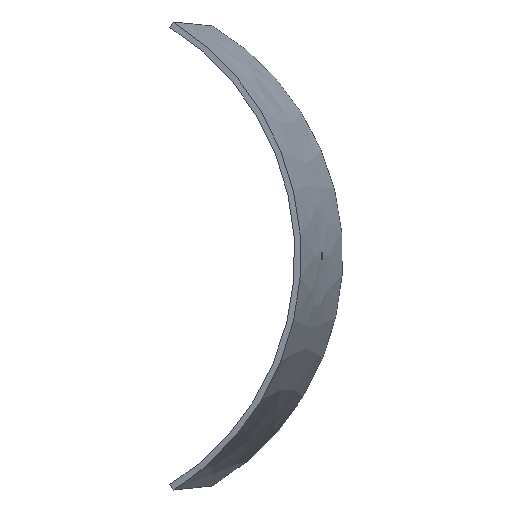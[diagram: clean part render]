
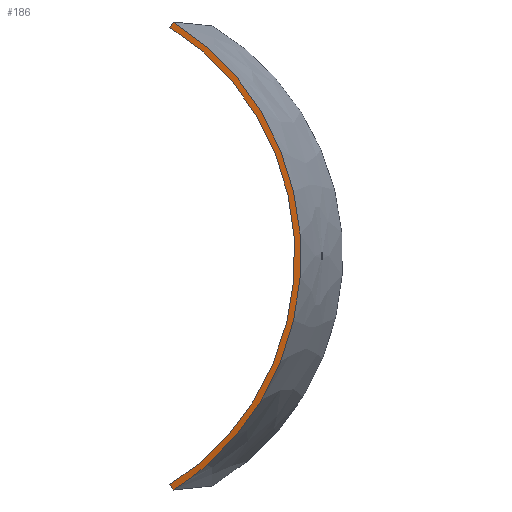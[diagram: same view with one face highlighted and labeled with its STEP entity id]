
A CAD part, front view. The second image highlights one B-rep face of the part: STEP entity #186.
In plain terms, the highlighted free-form (B-spline) face has degree [1, 3] with [2, 10] control points.
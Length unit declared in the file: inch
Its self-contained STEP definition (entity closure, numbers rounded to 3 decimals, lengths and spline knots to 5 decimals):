
#4 = CARTESIAN_POINT ( 'NONE',  ( 133.79311, -43.47202, -24.51712 ) ) ;
#22 = CARTESIAN_POINT ( 'NONE',  ( 144.90743, -47.00286, 5.65495 ) ) ;
#28 = CARTESIAN_POINT ( 'NONE',  ( 144.90743, -47.00286, -5.65495 ) ) ;
#29 = CARTESIAN_POINT ( 'NONE',  ( 129.62694, -42.06631, -27.94489 ) ) ;
#35 = CARTESIAN_POINT ( 'NONE',  ( 137.56025, -44.69603, -20.53253 ) ) ;
#56 = CARTESIAN_POINT ( 'NONE',  ( 144.17422, -46.84504, -5.52451 ) ) ;
#58 = B_SPLINE_SURFACE_WITH_KNOTS ( 'NONE', 1, 3, ( 
 ( #276, #479, #348, #474, #28, #230, #66, #109, #519, #192 ),
 ( #515, #433, #35, #103, #69, #344, #233, #437, #428, #200 ) ),
 .UNSPECIFIED., .F., .F., .F.,
 ( 2, 2 ),
 ( 4, 2, 2, 2, 4 ),
 ( 0., 1. ),
 ( 0., 0.25, 0.5, 0.75, 1. ),
 .UNSPECIFIED. ) ;
#66 = CARTESIAN_POINT ( 'NONE',  ( 143.49652, -46.54706, 11.2116 ) ) ;
#69 = CARTESIAN_POINT ( 'NONE',  ( 144.17422, -46.84504, -5.52451 ) ) ;
#97 = CARTESIAN_POINT ( 'NONE',  ( 133.79311, -43.47202, 24.51712 ) ) ;
#102 = CARTESIAN_POINT ( 'NONE',  ( 129.25334, -41.99696, 27.29828 ) ) ;
#103 = CARTESIAN_POINT ( 'NONE',  ( 142.79635, -46.39735, -10.9529 ) ) ;
#109 = CARTESIAN_POINT ( 'NONE',  ( 138.13446, -44.81479, 21.01807 ) ) ;
#114 = VERTEX_POINT ( 'NONE', #393 ) ;
#121 = ORIENTED_EDGE ( 'NONE', *, *, #387, .T. ) ;
#128 = ORIENTED_EDGE ( 'NONE', *, *, #467, .F. ) ;
#141 = CARTESIAN_POINT ( 'NONE',  ( 129.25334, -41.99696, 27.29828 ) ) ;
#148 = CARTESIAN_POINT ( 'NONE',  ( 134.27649, -43.56844, -25.0974 ) ) ;
#156 = CARTESIAN_POINT ( 'NONE',  ( 138.13446, -44.81479, 21.01807 ) ) ;
#174 = CARTESIAN_POINT ( 'NONE',  ( 129.25334, -41.99696, -27.29828 ) ) ;
#185 = CARTESIAN_POINT ( 'NONE',  ( 129.62694, -42.06631, 27.94489 ) ) ;
#186 = ADVANCED_FACE ( 'NONE', ( #423 ), #58, .F. ) ;
#191 = CARTESIAN_POINT ( 'NONE',  ( 129.25334, -41.99696, -27.29828 ) ) ;
#192 = CARTESIAN_POINT ( 'NONE',  ( 129.62694, -42.06631, 27.94489 ) ) ;
#199 = CARTESIAN_POINT ( 'NONE',  ( 143.49652, -46.54706, -11.2116 ) ) ;
#200 = CARTESIAN_POINT ( 'NONE',  ( 129.25334, -41.99696, 27.29828 ) ) ;
#211 = CARTESIAN_POINT ( 'NONE',  ( 129.62694, -42.06631, -27.94489 ) ) ;
#224 = CARTESIAN_POINT ( 'NONE',  ( 144.90743, -47.00286, -5.65495 ) ) ;
#230 = CARTESIAN_POINT ( 'NONE',  ( 144.90743, -47.00286, 5.65495 ) ) ;
#233 = CARTESIAN_POINT ( 'NONE',  ( 142.79635, -46.39735, 10.9529 ) ) ;
#234 = VERTEX_POINT ( 'NONE', #335 ) ;
#265 = CARTESIAN_POINT ( 'NONE',  ( 142.79635, -46.39735, 10.9529 ) ) ;
#276 = CARTESIAN_POINT ( 'NONE',  ( 129.62694, -42.06631, -27.94489 ) ) ;
#280 = EDGE_LOOP ( 'NONE', ( #128, #352, #121, #438 ) ) ;
#293 = CARTESIAN_POINT ( 'NONE',  ( 142.79635, -46.39735, -10.9529 ) ) ;
#296 = B_SPLINE_CURVE_WITH_KNOTS ( 'NONE', 3,
 ( #141, #97, #465, #265, #420, #56, #293, #365, #4, #174 ),
 .UNSPECIFIED., .F., .F.,
 ( 4, 2, 2, 2, 4 ),
 ( 0., 0.25, 0.5, 0.75, 1. ),
 .UNSPECIFIED. ) ;
#312 = CARTESIAN_POINT ( 'NONE',  ( 134.27649, -43.56844, 25.0974 ) ) ;
#335 = CARTESIAN_POINT ( 'NONE',  ( 129.62694, -42.06631, 27.94489 ) ) ;
#344 = CARTESIAN_POINT ( 'NONE',  ( 144.17422, -46.84504, 5.52451 ) ) ;
#348 = CARTESIAN_POINT ( 'NONE',  ( 138.13446, -44.81479, -21.01807 ) ) ;
#349 = VERTEX_POINT ( 'NONE', #29 ) ;
#352 = ORIENTED_EDGE ( 'NONE', *, *, #391, .T. ) ;
#353 = EDGE_CURVE ( 'NONE', #234, #349, #441, .T. ) ;
#357 = B_SPLINE_CURVE_WITH_KNOTS ( 'NONE', 1,
 ( #504, #211 ),
 .UNSPECIFIED., .F., .F.,
 ( 2, 2 ),
 ( 0., 1. ),
 .UNSPECIFIED. ) ;
#365 = CARTESIAN_POINT ( 'NONE',  ( 137.56025, -44.69603, -20.53253 ) ) ;
#387 = EDGE_CURVE ( 'NONE', #444, #349, #357, .T. ) ;
#391 = EDGE_CURVE ( 'NONE', #114, #444, #296, .T. ) ;
#393 = CARTESIAN_POINT ( 'NONE',  ( 129.25334, -41.99696, 27.29828 ) ) ;
#397 = B_SPLINE_CURVE_WITH_KNOTS ( 'NONE', 1,
 ( #102, #427 ),
 .UNSPECIFIED., .F., .F.,
 ( 2, 2 ),
 ( 0., 1. ),
 .UNSPECIFIED. ) ;
#420 = CARTESIAN_POINT ( 'NONE',  ( 144.17422, -46.84504, 5.52451 ) ) ;
#423 = FACE_OUTER_BOUND ( 'NONE', #280, .T. ) ;
#424 = CARTESIAN_POINT ( 'NONE',  ( 143.49652, -46.54706, 11.2116 ) ) ;
#426 = CARTESIAN_POINT ( 'NONE',  ( 129.62694, -42.06631, -27.94489 ) ) ;
#427 = CARTESIAN_POINT ( 'NONE',  ( 129.62694, -42.06631, 27.94489 ) ) ;
#428 = CARTESIAN_POINT ( 'NONE',  ( 133.79311, -43.47202, 24.51712 ) ) ;
#433 = CARTESIAN_POINT ( 'NONE',  ( 133.79311, -43.47202, -24.51712 ) ) ;
#437 = CARTESIAN_POINT ( 'NONE',  ( 137.56025, -44.69603, 20.53253 ) ) ;
#438 = ORIENTED_EDGE ( 'NONE', *, *, #353, .F. ) ;
#441 = B_SPLINE_CURVE_WITH_KNOTS ( 'NONE', 3,
 ( #185, #312, #156, #424, #22, #224, #199, #507, #148, #426 ),
 .UNSPECIFIED., .F., .F.,
 ( 4, 2, 2, 2, 4 ),
 ( 0., 0.25, 0.5, 0.75, 1. ),
 .UNSPECIFIED. ) ;
#444 = VERTEX_POINT ( 'NONE', #191 ) ;
#465 = CARTESIAN_POINT ( 'NONE',  ( 137.56025, -44.69603, 20.53253 ) ) ;
#467 = EDGE_CURVE ( 'NONE', #114, #234, #397, .T. ) ;
#474 = CARTESIAN_POINT ( 'NONE',  ( 143.49652, -46.54706, -11.2116 ) ) ;
#479 = CARTESIAN_POINT ( 'NONE',  ( 134.27651, -43.56845, -25.09739 ) ) ;
#504 = CARTESIAN_POINT ( 'NONE',  ( 129.25334, -41.99696, -27.29828 ) ) ;
#507 = CARTESIAN_POINT ( 'NONE',  ( 138.13446, -44.81479, -21.01807 ) ) ;
#515 = CARTESIAN_POINT ( 'NONE',  ( 129.25334, -41.99696, -27.29828 ) ) ;
#519 = CARTESIAN_POINT ( 'NONE',  ( 134.27651, -43.56845, 25.09739 ) ) ;
